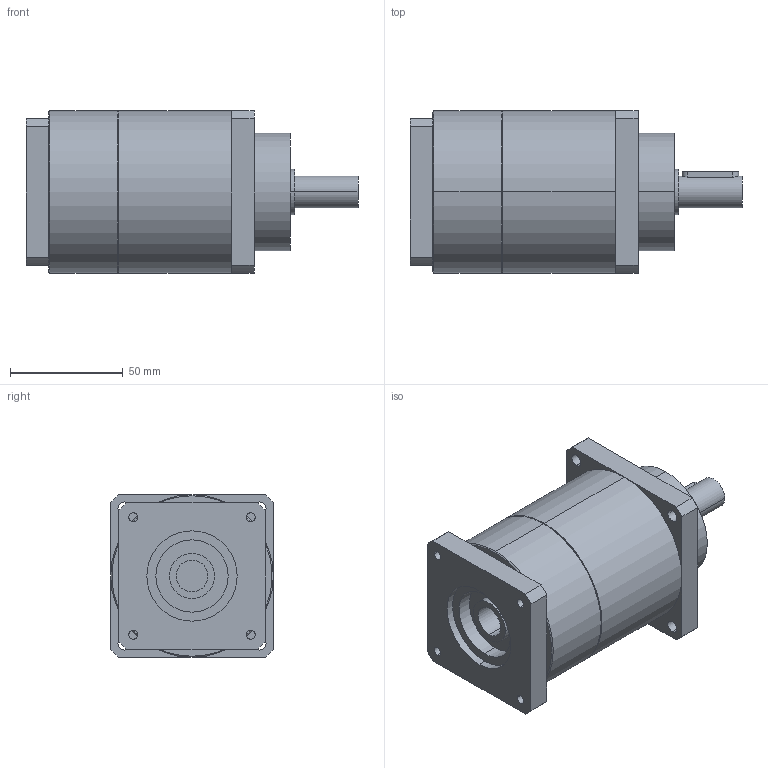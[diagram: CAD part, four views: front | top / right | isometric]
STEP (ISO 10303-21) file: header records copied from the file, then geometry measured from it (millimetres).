
FILE_DESCRIPTION(('CoCreate Modeling STEP Export'),'2;1');
FILE_NAME('GPT75_ig-9-12-16-20-25-28-35-40-50-70-100_14_B5T_14_P34.stp','2014-08-27T13:38:18',(''),(''),'CoCreate Modeling STEP processor for AP214 (Solid Model)','CoCreate Modeling 16.00C 25-Feb-2009 (C) Parametric Technology GmbH','');
FILE_SCHEMA(('AUTOMOTIVE_DESIGN { 1 0 10303 214 1 1 1 1 }'));
Length unit declared in the file: millimetre
Products named in the file (2): GPT75_ig-9-12-16-20-25-28-35-40-50-70-100_14_B5T_14_P34
Assembly tree (1 placements, depth 2):
  GPT75_ig-9-12-16-20-25-28-35-40-50-70-100_14_B5T_14_P34
    GPT75_ig-9-12-16-20-25-28-35-40-50-70-100_14_B5T_14_P34
Bounding box: 147 x 72 x 72 mm (x, y, z)
Volume: 447375.5 mm3; surface area: 42917.8 mm2
Topology: 1 solids, 1 shells, 88 faces, 226 edges, 145 vertices
Faces by surface type: cylinder 46, plane 38, cone 4
Entity records: 2676 total; most frequent: CARTESIAN_POINT 744, ORIENTED_EDGE 452, DIRECTION 334, EDGE_CURVE 226, VERTEX_POINT 145, AXIS2_PLACEMENT_3D 123, EDGE_LOOP 109, VECTOR 88
